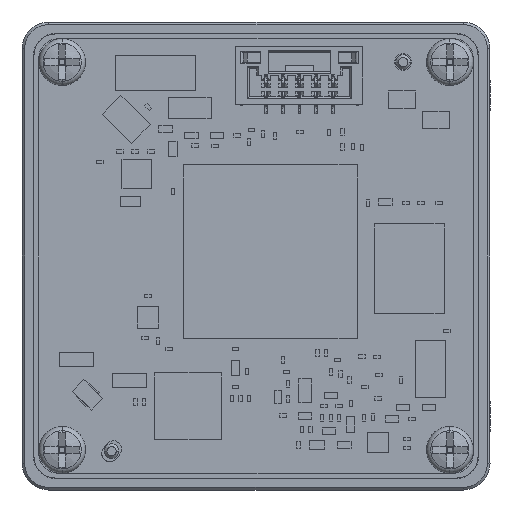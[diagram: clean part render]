
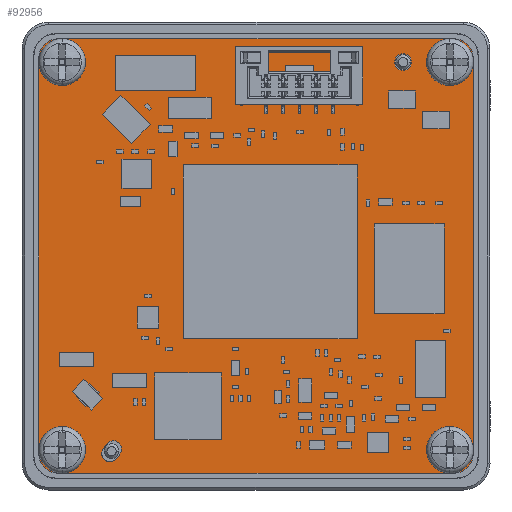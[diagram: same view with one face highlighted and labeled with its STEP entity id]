
A CAD part, front view. The second image highlights one B-rep face of the part: STEP entity #92956.
In plain terms, the highlighted planar face has unit normal (0, 1, 0).
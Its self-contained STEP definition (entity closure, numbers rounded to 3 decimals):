
#92239=CARTESIAN_POINT('',(14.75,-13.6,-14.75));
#92240=DIRECTION('',(0.,-1.,0.));
#92241=DIRECTION('',(0.,0.,-1.));
#92242=AXIS2_PLACEMENT_3D('',#92239,#92240,#92241);
#92247=CARTESIAN_POINT('',(14.75,-13.6,14.75));
#92248=DIRECTION('',(0.,-1.,0.));
#92249=DIRECTION('',(1.,0.,0.));
#92250=AXIS2_PLACEMENT_3D('',#92247,#92248,#92249);
#92255=CARTESIAN_POINT('',(-14.75,-13.6,14.75));
#92256=DIRECTION('',(0.,-1.,0.));
#92257=DIRECTION('',(0.,0.,1.));
#92258=AXIS2_PLACEMENT_3D('',#92255,#92256,#92257);
#92263=CARTESIAN_POINT('',(-14.75,-13.6,-14.75));
#92264=DIRECTION('',(0.,-1.,0.));
#92265=DIRECTION('',(-1.,0.,0.));
#92266=AXIS2_PLACEMENT_3D('',#92263,#92264,#92265);
#92271=CARTESIAN_POINT('',(11.,-13.6,14.5));
#92272=DIRECTION('',(0.,1.,0.));
#92273=DIRECTION('',(1.,0.,0.));
#92274=AXIS2_PLACEMENT_3D('',#92271,#92272,#92273);
#92279=CARTESIAN_POINT('',(11.,-13.6,14.5));
#92280=DIRECTION('',(0.,1.,0.));
#92281=DIRECTION('',(-1.,0.,0.));
#92282=AXIS2_PLACEMENT_3D('',#92279,#92280,#92281);
#92287=DIRECTION('',(0.599,0.,0.801));
#92288=VECTOR('',#92287,0.4);
#92289=CARTESIAN_POINT('',(-11.42,-13.6,-14.385));
#92290=LINE('',#92289,#92288);
#92294=CARTESIAN_POINT('',(-10.68,-13.6,-14.44));
#92295=DIRECTION('',(0.,1.,0.));
#92296=DIRECTION('',(-0.8,0.,0.599));
#92297=AXIS2_PLACEMENT_3D('',#92294,#92295,#92296);
#92302=CARTESIAN_POINT('',(-10.68,-13.6,-14.44));
#92303=DIRECTION('',(0.,1.,0.));
#92304=DIRECTION('',(1.,0.,0.));
#92305=AXIS2_PLACEMENT_3D('',#92302,#92303,#92304);
#92310=DIRECTION('',(-0.599,0.,-0.801));
#92311=VECTOR('',#92310,0.4);
#92312=CARTESIAN_POINT('',(-10.18,-13.6,-14.814));
#92313=LINE('',#92312,#92311);
#92317=CARTESIAN_POINT('',(-10.42,-13.6,-15.135));
#92318=CARTESIAN_POINT('',(-10.466,-13.6,-15.193));
#92319=CARTESIAN_POINT('',(-10.566,-13.6,-15.289));
#92320=CARTESIAN_POINT('',(-10.749,-13.6,-15.372));
#92321=CARTESIAN_POINT('',(-10.944,-13.6,-15.394));
#92322=CARTESIAN_POINT('',(-11.132,-13.6,-15.358));
#92323=CARTESIAN_POINT('',(-11.303,-13.6,-15.266));
#92324=CARTESIAN_POINT('',(-11.439,-13.6,-15.125));
#92325=CARTESIAN_POINT('',(-11.524,-13.6,-14.953));
#92326=CARTESIAN_POINT('',(-11.554,-13.6,-14.763));
#92327=CARTESIAN_POINT('',(-11.527,-13.6,-14.57));
#92328=CARTESIAN_POINT('',(-11.463,-13.6,-14.446));
#92329=CARTESIAN_POINT('',(-11.42,-13.6,-14.385));
#92334=CARTESIAN_POINT('',(-14.5,-13.6,14.5));
#92335=DIRECTION('',(0.,1.,0.));
#92336=DIRECTION('',(-1.,0.,0.));
#92337=AXIS2_PLACEMENT_3D('',#92334,#92335,#92336);
#92342=CARTESIAN_POINT('',(-14.5,-13.6,14.5));
#92343=DIRECTION('',(0.,1.,0.));
#92344=DIRECTION('',(1.,0.,0.));
#92345=AXIS2_PLACEMENT_3D('',#92342,#92343,#92344);
#92350=CARTESIAN_POINT('',(-14.5,-13.6,-14.5));
#92351=DIRECTION('',(0.,1.,0.));
#92352=DIRECTION('',(-1.,0.,0.));
#92353=AXIS2_PLACEMENT_3D('',#92350,#92351,#92352);
#92358=CARTESIAN_POINT('',(-14.5,-13.6,-14.5));
#92359=DIRECTION('',(0.,1.,0.));
#92360=DIRECTION('',(1.,0.,0.));
#92361=AXIS2_PLACEMENT_3D('',#92358,#92359,#92360);
#92366=CARTESIAN_POINT('',(14.5,-13.6,-14.5));
#92367=DIRECTION('',(0.,1.,0.));
#92368=DIRECTION('',(-1.,0.,0.));
#92369=AXIS2_PLACEMENT_3D('',#92366,#92367,#92368);
#92374=CARTESIAN_POINT('',(14.5,-13.6,-14.5));
#92375=DIRECTION('',(0.,1.,0.));
#92376=DIRECTION('',(1.,0.,0.));
#92377=AXIS2_PLACEMENT_3D('',#92374,#92375,#92376);
#92382=CARTESIAN_POINT('',(14.5,-13.6,14.5));
#92383=DIRECTION('',(0.,1.,0.));
#92384=DIRECTION('',(-1.,0.,0.));
#92385=AXIS2_PLACEMENT_3D('',#92382,#92383,#92384);
#92390=CARTESIAN_POINT('',(14.5,-13.6,14.5));
#92391=DIRECTION('',(0.,1.,0.));
#92392=DIRECTION('',(1.,0.,0.));
#92393=AXIS2_PLACEMENT_3D('',#92390,#92391,#92392);
#92398=DIRECTION('',(-1.,0.,0.));
#92399=VECTOR('',#92398,29.5);
#92400=CARTESIAN_POINT('',(14.75,-13.6,-16.25));
#92401=LINE('',#92400,#92399);
#92419=DIRECTION('',(0.,0.,1.));
#92420=VECTOR('',#92419,29.5);
#92421=CARTESIAN_POINT('',(-16.25,-13.6,-14.75));
#92422=LINE('',#92421,#92420);
#92440=DIRECTION('',(1.,0.,0.));
#92441=VECTOR('',#92440,29.5);
#92442=CARTESIAN_POINT('',(-14.75,-13.6,16.25));
#92443=LINE('',#92442,#92441);
#92461=DIRECTION('',(0.,0.,-1.));
#92462=VECTOR('',#92461,29.5);
#92463=CARTESIAN_POINT('',(16.25,-13.6,14.75));
#92464=LINE('',#92463,#92462);
#92799=VERTEX_POINT('',#92317);
#92800=VERTEX_POINT('',#92329);
#92807=CARTESIAN_POINT('',(14.75,-13.6,-16.25));
#92808=CARTESIAN_POINT('',(16.25,-13.6,-14.75));
#92809=VERTEX_POINT('',#92807);
#92810=VERTEX_POINT('',#92808);
#92811=CARTESIAN_POINT('',(16.25,-13.6,14.75));
#92812=CARTESIAN_POINT('',(14.75,-13.6,16.25));
#92813=VERTEX_POINT('',#92811);
#92814=VERTEX_POINT('',#92812);
#92815=CARTESIAN_POINT('',(-14.75,-13.6,16.25));
#92816=CARTESIAN_POINT('',(-16.25,-13.6,14.75));
#92817=VERTEX_POINT('',#92815);
#92818=VERTEX_POINT('',#92816);
#92819=CARTESIAN_POINT('',(-16.25,-13.6,-14.75));
#92820=CARTESIAN_POINT('',(-14.75,-13.6,-16.25));
#92821=VERTEX_POINT('',#92819);
#92822=VERTEX_POINT('',#92820);
#92823=CARTESIAN_POINT('',(11.625,-13.6,14.5));
#92824=CARTESIAN_POINT('',(10.375,-13.6,14.5));
#92825=VERTEX_POINT('',#92823);
#92826=VERTEX_POINT('',#92824);
#92827=CARTESIAN_POINT('',(-11.18,-13.6,-14.065));
#92828=VERTEX_POINT('',#92827);
#92829=CARTESIAN_POINT('',(-10.055,-13.6,-14.44));
#92830=VERTEX_POINT('',#92829);
#92831=CARTESIAN_POINT('',(-10.18,-13.6,-14.814));
#92832=VERTEX_POINT('',#92831);
#92833=CARTESIAN_POINT('',(-15.6,-13.6,14.5));
#92834=CARTESIAN_POINT('',(-13.4,-13.6,14.5));
#92835=VERTEX_POINT('',#92833);
#92836=VERTEX_POINT('',#92834);
#92837=CARTESIAN_POINT('',(-15.6,-13.6,-14.5));
#92838=CARTESIAN_POINT('',(-13.4,-13.6,-14.5));
#92839=VERTEX_POINT('',#92837);
#92840=VERTEX_POINT('',#92838);
#92841=CARTESIAN_POINT('',(13.4,-13.6,-14.5));
#92842=CARTESIAN_POINT('',(15.6,-13.6,-14.5));
#92843=VERTEX_POINT('',#92841);
#92844=VERTEX_POINT('',#92842);
#92845=CARTESIAN_POINT('',(13.4,-13.6,14.5));
#92846=CARTESIAN_POINT('',(15.6,-13.6,14.5));
#92847=VERTEX_POINT('',#92845);
#92848=VERTEX_POINT('',#92846);
#92891=CARTESIAN_POINT('',(0.,-13.6,0.));
#92892=DIRECTION('',(0.,1.,0.));
#92893=DIRECTION('',(-1.,0.,0.));
#92894=AXIS2_PLACEMENT_3D('',#92891,#92892,#92893);
#92895=PLANE('',#92894);
#92897=ORIENTED_EDGE('',*,*,#92896,.T.);
#92899=ORIENTED_EDGE('',*,*,#92898,.F.);
#92901=ORIENTED_EDGE('',*,*,#92900,.T.);
#92903=ORIENTED_EDGE('',*,*,#92902,.F.);
#92905=ORIENTED_EDGE('',*,*,#92904,.T.);
#92907=ORIENTED_EDGE('',*,*,#92906,.F.);
#92909=ORIENTED_EDGE('',*,*,#92908,.T.);
#92911=ORIENTED_EDGE('',*,*,#92910,.F.);
#92912=EDGE_LOOP('',(#92897,#92899,#92901,#92903,#92905,#92907,#92909,#92911));
#92913=FACE_OUTER_BOUND('',#92912,.F.);
#92915=ORIENTED_EDGE('',*,*,#92914,.T.);
#92917=ORIENTED_EDGE('',*,*,#92916,.T.);
#92918=EDGE_LOOP('',(#92915,#92917));
#92919=FACE_BOUND('',#92918,.F.);
#92921=ORIENTED_EDGE('',*,*,#92920,.T.);
#92923=ORIENTED_EDGE('',*,*,#92922,.T.);
#92925=ORIENTED_EDGE('',*,*,#92924,.T.);
#92927=ORIENTED_EDGE('',*,*,#92926,.T.);
#92929=ORIENTED_EDGE('',*,*,#92928,.T.);
#92930=EDGE_LOOP('',(#92921,#92923,#92925,#92927,#92929));
#92931=FACE_BOUND('',#92930,.F.);
#92933=ORIENTED_EDGE('',*,*,#92932,.T.);
#92935=ORIENTED_EDGE('',*,*,#92934,.T.);
#92936=EDGE_LOOP('',(#92933,#92935));
#92937=FACE_BOUND('',#92936,.F.);
#92939=ORIENTED_EDGE('',*,*,#92938,.T.);
#92941=ORIENTED_EDGE('',*,*,#92940,.T.);
#92942=EDGE_LOOP('',(#92939,#92941));
#92943=FACE_BOUND('',#92942,.F.);
#92945=ORIENTED_EDGE('',*,*,#92944,.T.);
#92947=ORIENTED_EDGE('',*,*,#92946,.T.);
#92948=EDGE_LOOP('',(#92945,#92947));
#92949=FACE_BOUND('',#92948,.F.);
#92951=ORIENTED_EDGE('',*,*,#92950,.T.);
#92953=ORIENTED_EDGE('',*,*,#92952,.T.);
#92954=EDGE_LOOP('',(#92951,#92953));
#92955=FACE_BOUND('',#92954,.F.);
#92956=ADVANCED_FACE('',(#92913,#92919,#92931,#92937,#92943,#92949,#92955),
#92895,.T.);
#92243=CIRCLE('',#92242,1.5);
#92251=CIRCLE('',#92250,1.5);
#92259=CIRCLE('',#92258,1.5);
#92267=CIRCLE('',#92266,1.5);
#92275=CIRCLE('',#92274,0.625);
#92283=CIRCLE('',#92282,0.625);
#92298=CIRCLE('',#92297,0.625);
#92306=CIRCLE('',#92305,0.625);
#92330=B_SPLINE_CURVE_WITH_KNOTS('',3,(#92317,#92318,#92319,#92320,#92321,
#92322,#92323,#92324,#92325,#92326,#92327,#92328,#92329),.UNSPECIFIED.,.F.,.F.,(
4,1,1,1,1,1,1,1,1,1,4),(0.,0.1,0.2,0.3,0.4,0.5,0.6,0.7,0.8,
0.9,1.),.UNSPECIFIED.);
#92338=CIRCLE('',#92337,1.1);
#92346=CIRCLE('',#92345,1.1);
#92354=CIRCLE('',#92353,1.1);
#92362=CIRCLE('',#92361,1.1);
#92370=CIRCLE('',#92369,1.1);
#92378=CIRCLE('',#92377,1.1);
#92386=CIRCLE('',#92385,1.1);
#92394=CIRCLE('',#92393,1.1);
#92896=EDGE_CURVE('',#92809,#92810,#92243,.T.);
#92898=EDGE_CURVE('',#92813,#92810,#92464,.T.);
#92900=EDGE_CURVE('',#92813,#92814,#92251,.T.);
#92902=EDGE_CURVE('',#92817,#92814,#92443,.T.);
#92904=EDGE_CURVE('',#92817,#92818,#92259,.T.);
#92906=EDGE_CURVE('',#92821,#92818,#92422,.T.);
#92908=EDGE_CURVE('',#92821,#92822,#92267,.T.);
#92910=EDGE_CURVE('',#92809,#92822,#92401,.T.);
#92914=EDGE_CURVE('',#92825,#92826,#92275,.T.);
#92916=EDGE_CURVE('',#92826,#92825,#92283,.T.);
#92920=EDGE_CURVE('',#92800,#92828,#92290,.T.);
#92922=EDGE_CURVE('',#92828,#92830,#92298,.T.);
#92924=EDGE_CURVE('',#92830,#92832,#92306,.T.);
#92926=EDGE_CURVE('',#92832,#92799,#92313,.T.);
#92928=EDGE_CURVE('',#92799,#92800,#92330,.T.);
#92932=EDGE_CURVE('',#92835,#92836,#92338,.T.);
#92934=EDGE_CURVE('',#92836,#92835,#92346,.T.);
#92938=EDGE_CURVE('',#92839,#92840,#92354,.T.);
#92940=EDGE_CURVE('',#92840,#92839,#92362,.T.);
#92944=EDGE_CURVE('',#92843,#92844,#92370,.T.);
#92946=EDGE_CURVE('',#92844,#92843,#92378,.T.);
#92950=EDGE_CURVE('',#92847,#92848,#92386,.T.);
#92952=EDGE_CURVE('',#92848,#92847,#92394,.T.);
